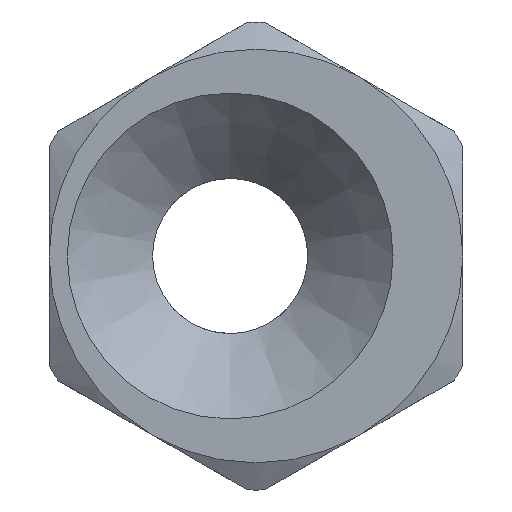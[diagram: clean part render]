
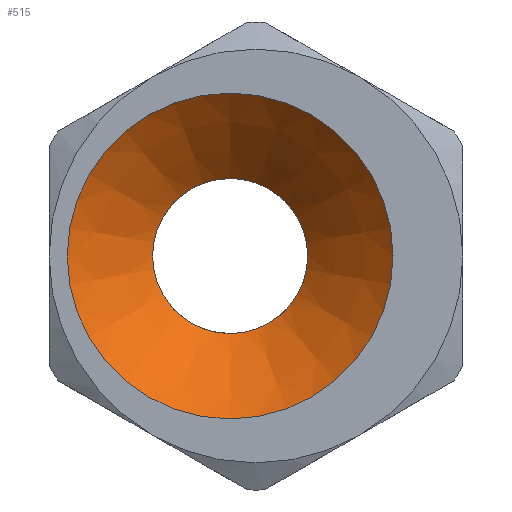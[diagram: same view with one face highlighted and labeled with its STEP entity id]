
A CAD part, left-side view. The second image highlights one B-rep face of the part: STEP entity #515.
In plain terms, the highlighted conical face has half-angle 45 degrees and reference radius 6.3 mm.
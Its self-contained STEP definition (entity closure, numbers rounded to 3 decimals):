
#56=CONICAL_SURFACE('',#590,6.3,0.785);
#72=CIRCLE('',#538,3.);
#97=CIRCLE('',#588,6.3);
#236=ORIENTED_EDGE('',*,*,#256,.T.);
#237=ORIENTED_EDGE('',*,*,#319,.F.);
#256=EDGE_CURVE('',#328,#328,#72,.T.);
#319=EDGE_CURVE('',#365,#365,#97,.T.);
#328=VERTEX_POINT('',#762);
#365=VERTEX_POINT('',#959);
#438=EDGE_LOOP('',(#236));
#439=EDGE_LOOP('',(#237));
#474=FACE_BOUND('',#438,.T.);
#475=FACE_BOUND('',#439,.T.);
#515=ADVANCED_FACE('',(#474,#475),#56,.F.);
#538=AXIS2_PLACEMENT_3D('',#761,#615,#616);
#588=AXIS2_PLACEMENT_3D('',#958,#729,#730);
#590=AXIS2_PLACEMENT_3D('',#961,#733,#734);
#615=DIRECTION('',(1.,0.,0.));
#616=DIRECTION('',(0.,0.,-1.));
#729=DIRECTION('',(1.,0.,0.));
#730=DIRECTION('',(0.,0.,-1.));
#733=DIRECTION('',(-1.,0.,0.));
#734=DIRECTION('',(0.,0.,1.));
#761=CARTESIAN_POINT('',(3.3,1.,0.));
#762=CARTESIAN_POINT('',(3.3,1.,-3.));
#958=CARTESIAN_POINT('',(0.,1.,0.));
#959=CARTESIAN_POINT('',(0.,1.,-6.3));
#961=CARTESIAN_POINT('',(0.,1.,0.));
